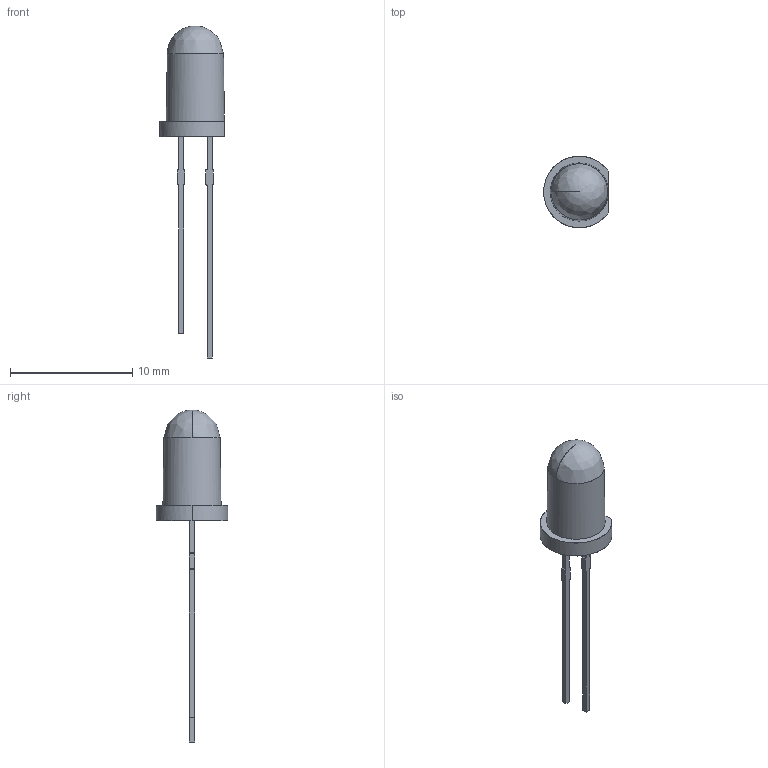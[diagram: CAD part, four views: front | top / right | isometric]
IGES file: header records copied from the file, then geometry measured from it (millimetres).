
Start section: C
Global section: file name: LED 5mm_A.igs; native system: By Siemens PLM Incorporated; preprocessor: XPlus GENERIC/IGES 19.0.9; author: Author; organization: Title; date: 20170402.135719; units: millimetre
Bounding box: 5.31 x 5.86 x 27.18 mm (x, y, z)
Surface area: 248.3 mm2 (no closed solid volume)
Topology: 0 solids, 0 shells, 43 faces, 225 edges, 223 vertices
Faces by surface type: bspline 43
